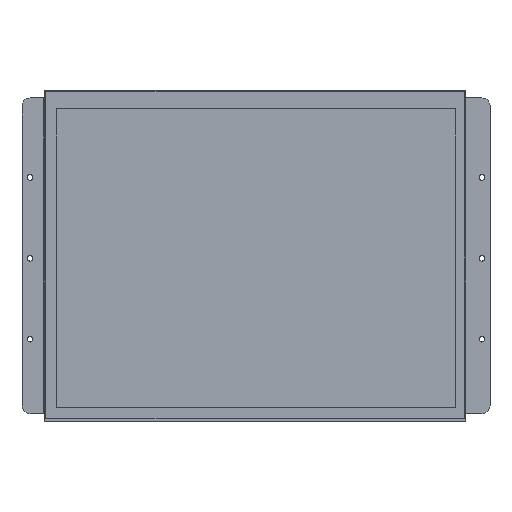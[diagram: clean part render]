
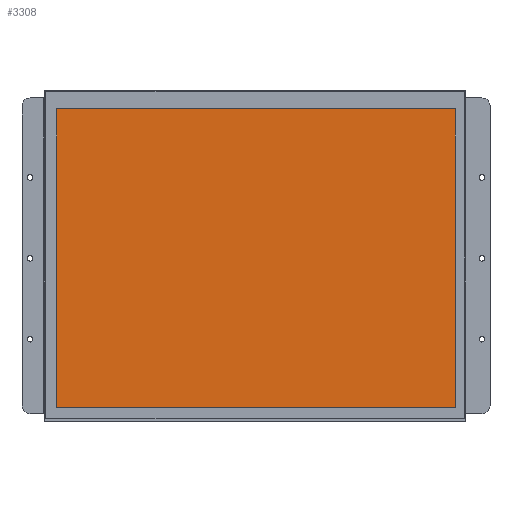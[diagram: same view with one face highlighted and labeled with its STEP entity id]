
A CAD part, top view. The second image highlights one B-rep face of the part: STEP entity #3308.
In plain terms, the highlighted planar face has unit normal (0, 0, 1).
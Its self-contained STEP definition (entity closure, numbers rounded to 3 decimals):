
#1184=DIRECTION('',(0.,1.,0.));
#1185=VECTOR('',#1184,184.5);
#1186=CARTESIAN_POINT('',(123.,-92.25,9.1));
#1187=LINE('',#1186,#1185);
#1188=DIRECTION('',(1.,0.,0.));
#1189=VECTOR('',#1188,246.);
#1190=CARTESIAN_POINT('',(-123.,-92.25,9.1));
#1191=LINE('',#1190,#1189);
#1192=DIRECTION('',(0.,-1.,0.));
#1193=VECTOR('',#1192,184.5);
#1194=CARTESIAN_POINT('',(-123.,92.25,9.1));
#1195=LINE('',#1194,#1193);
#1196=DIRECTION('',(-1.,0.,0.));
#1197=VECTOR('',#1196,246.);
#1198=CARTESIAN_POINT('',(123.,92.25,9.1));
#1199=LINE('',#1198,#1197);
#1600=CARTESIAN_POINT('',(123.,-92.25,9.1));
#1601=CARTESIAN_POINT('',(123.,92.25,9.1));
#1602=VERTEX_POINT('',#1600);
#1603=VERTEX_POINT('',#1601);
#1604=CARTESIAN_POINT('',(-123.,92.25,9.1));
#1605=VERTEX_POINT('',#1604);
#1606=CARTESIAN_POINT('',(-123.,-92.25,9.1));
#1607=VERTEX_POINT('',#1606);
#3297=CARTESIAN_POINT('',(-129.9,103.,9.1));
#3298=DIRECTION('',(0.,0.,1.));
#3299=DIRECTION('',(-1.,0.,0.));
#3300=AXIS2_PLACEMENT_3D('',#3297,#3298,#3299);
#3301=PLANE('',#3300);
#3302=ORIENTED_EDGE('',*,*,#3249,.F.);
#3303=ORIENTED_EDGE('',*,*,#3264,.F.);
#3304=ORIENTED_EDGE('',*,*,#3278,.F.);
#3305=ORIENTED_EDGE('',*,*,#3291,.F.);
#3306=EDGE_LOOP('',(#3302,#3303,#3304,#3305));
#3307=FACE_OUTER_BOUND('',#3306,.F.);
#3249=EDGE_CURVE('',#1602,#1603,#1187,.T.);
#3264=EDGE_CURVE('',#1607,#1602,#1191,.T.);
#3278=EDGE_CURVE('',#1605,#1607,#1195,.T.);
#3291=EDGE_CURVE('',#1603,#1605,#1199,.T.);
#3308=ADVANCED_FACE('',(#3307),#3301,.T.);
